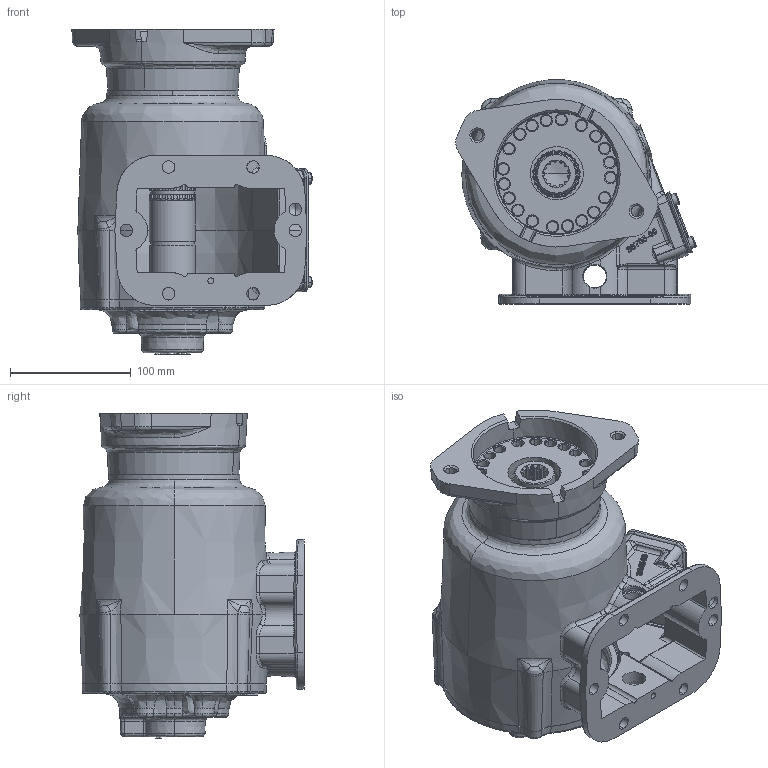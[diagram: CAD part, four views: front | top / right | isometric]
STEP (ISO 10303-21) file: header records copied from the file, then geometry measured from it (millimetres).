
FILE_DESCRIPTION (( 'STEP AP203' ), '1' );
FILE_NAME ('CS6B-A6XXX-H36X.STEP', '2023-05-18T19:32:36', ( '' ), ( '' ), 'SwSTEP 2.0', 'SolidWorks 2021', '' );
FILE_SCHEMA (( 'CONFIG_CONTROL_DESIGN' ));
Length unit declared in the file: inch
Products named in the file (15): 26t36175; 24T36894; 12T34003; 19T36174; 11T36124-1; 19T41118; CS6B-A6XXX-H36X; 19T33233; 14T38981; 06t36893_06T36893; 16T41119; 15T36717; 14TA4819_Config1; 25T21684; 01T37072-01
Assembly tree (27 placements, depth 3):
  CS6B-A6XXX-H36X
    01T37072-01
    16T41119
    15T36717
    12T34003
    25T21684  x4
    19T41118  x4
    19T36174  x4
    11T36124-1
    24T36894
    26t36175  x2
    19T33233  x4
    14TA4819_Config1
      14T38981
    06t36893_06T36893
Bounding box: 198.75 x 185.25 x 268.87 mm (x, y, z)
Volume: 1572988.6 mm3; surface area: 436430.7 mm2
Topology: 22 solids, 30 shells, 3122 faces, 7985 edges, 5003 vertices
Faces by surface type: bspline 1162, plane 799, cylinder 624, cone 458, torus 66, sphere 13
Entity records: 178168 total; most frequent: CARTESIAN_POINT 115547, ORIENTED_EDGE 14596, DIRECTION 9254, EDGE_CURVE 7299, VERTEX_POINT 4634, AXIS2_PLACEMENT_3D 3333, EDGE_LOOP 3108, B_SPLINE_CURVE_WITH_KNOTS 2997
